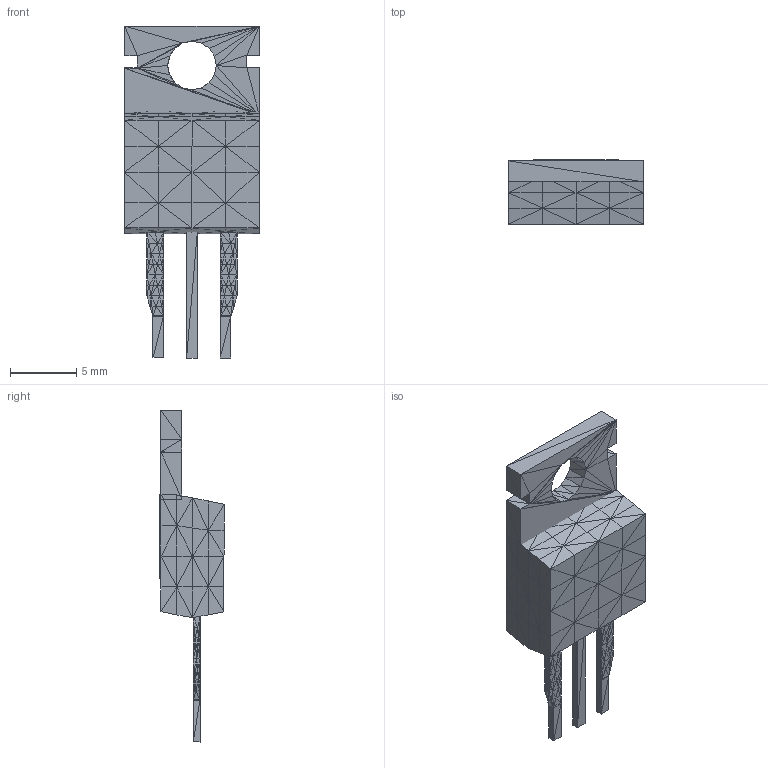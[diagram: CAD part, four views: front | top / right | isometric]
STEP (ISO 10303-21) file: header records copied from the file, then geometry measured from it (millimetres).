
FILE_DESCRIPTION(('HOOPS Exchange Step'),'2;1');
FILE_NAME('***.stp');
FILE_SCHEMA( ('AP242_MANAGED_MODEL_BASED_3D_ENGINEERING_MIM_LF {1 0 10303 442 1 1 4 }') );
Length unit declared in the file: inch
Products named in the file (9): TO-220_2; TO-220_3; TO-220_4; TO-220_5; TO-220_6; TO-220_7; TO-220_8; TO-220_9; TO-220
Assembly tree (8 placements, depth 2):
  TO-220
    TO-220_2
    TO-220_3
    TO-220_4
    TO-220_5
    TO-220_6
    TO-220_7
    TO-220_8
    TO-220_9
Bounding box: 10.16 x 4.87 x 25.08 mm (x, y, z)
Volume: 593.7 mm3; surface area: 756.1 mm2
Topology: 8 solids, 8 shells, 804 faces, 1206 edges, 416 vertices
Faces by surface type: plane 804
Entity records: 16084 total; most frequent: DIRECTION 2850, CARTESIAN_POINT 2444, ORIENTED_EDGE 2412, VECTOR 1206, LINE 1206, EDGE_CURVE 1206, AXIS2_PLACEMENT_3D 822, PLANE 804
